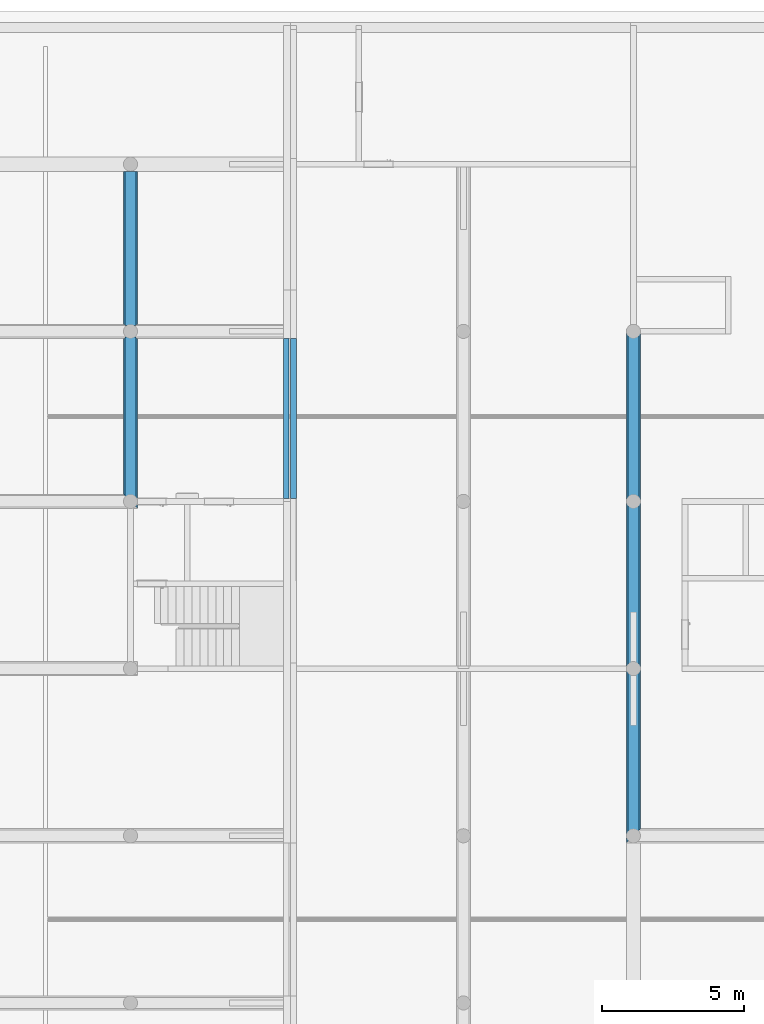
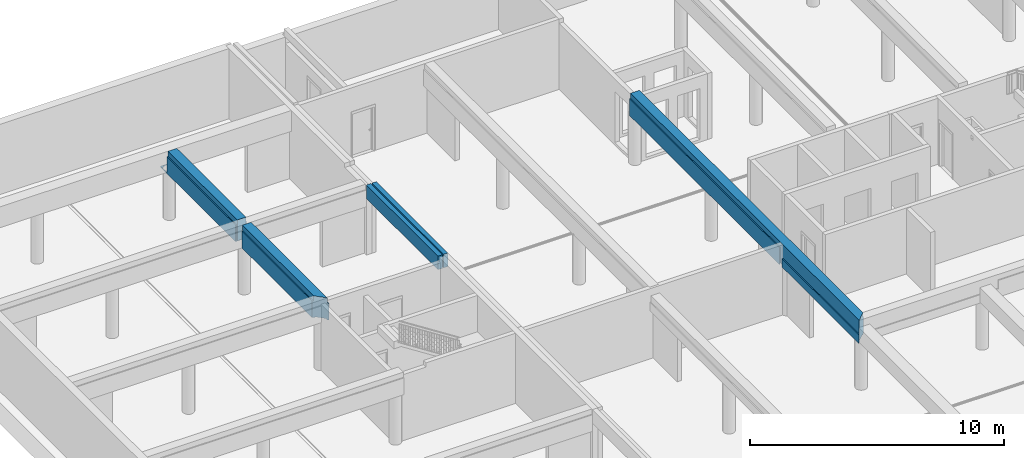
# One storey, part 8 of 25: 4 beams.
"""IFC2X3 building model written with IfcOpenShell, lengths in millimetres."""

from ifc_helpers import new_model, entity, si_unit, converted_unit, derived_unit, money_unit, direction, frame, origin_with_axes, place, context, subcontext, project, spatial, faceted_brep, material, material_list, type_object, element, save


model = new_model("IFC2X3")

# Units and contexts
model_context = context("Model", 3, precision=0.01, world=origin_with_axes(), true_north=direction((0.34421633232, 0.938890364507)))
body_context = subcontext(model_context, "Body", "Model", "MODEL_VIEW")
ifc_project = project(units=[si_unit("LENGTHUNIT", "METRE", prefix="MILLI"), si_unit("AREAUNIT", "SQUARE_METRE"), si_unit("VOLUMEUNIT", "CUBIC_METRE"), converted_unit("PLANEANGLEUNIT", "DEGREE", entity("IfcPlaneAngleMeasure", 0.0174532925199), si_unit("PLANEANGLEUNIT", "RADIAN"), dimensions=[0, 0, 0, 0, 0, 0, 0]), si_unit("SOLIDANGLEUNIT", "STERADIAN"), money_unit("USD"), converted_unit("TIMEUNIT", "Year", entity("IfcTimeMeasure", 31556926.0), si_unit("TIMEUNIT", "SECOND"), dimensions=[0, 0, 1, 0, 0, 0, 0]), si_unit("MASSUNIT", "GRAM", prefix="KILO"), si_unit("THERMODYNAMICTEMPERATUREUNIT", "DEGREE_CELSIUS"), si_unit("LUMINOUSINTENSITYUNIT", "LUMEN"), si_unit("ENERGYUNIT", "JOULE", prefix="MEGA"), derived_unit("THERMALCONDUCTANCEUNIT", [(si_unit("POWERUNIT", "WATT"), 1), (si_unit("LENGTHUNIT", "METRE"), -1), (si_unit("THERMODYNAMICTEMPERATUREUNIT", "KELVIN"), -1)]), derived_unit("SPECIFICHEATCAPACITYUNIT", [(si_unit("ENERGYUNIT", "JOULE"), 1), (si_unit("MASSUNIT", "GRAM", prefix="KILO"), -1), (si_unit("THERMODYNAMICTEMPERATUREUNIT", "KELVIN"), -1)]), derived_unit("MASSDENSITYUNIT", [(si_unit("MASSUNIT", "GRAM", prefix="KILO"), 1), (si_unit("VOLUMEUNIT", "CUBIC_METRE"), -1)])], contexts=[model_context])

# Site, building, storey
site_placement = place(None, origin_with_axes())
site = spatial("IfcSite", under=ifc_project, at=site_placement, Name="USTRONIE MORSKIE", CompositionType="ELEMENT")
building_placement = place(site_placement, origin_with_axes())
building = spatial("IfcBuilding", under=site, at=building_placement, Name="Budynek", CompositionType="ELEMENT")
storey_placement = place(building_placement, frame((0.0, 0.0, -3600.0), z_axis=(0.0, 0.0, 1.0), x_axis=(1.0, 0.0, 0.0)))
storey = spatial("IfcBuildingStorey", under=building, at=storey_placement, Name="GARAZ", CompositionType="ELEMENT", Elevation=-3600.0)

# Beams
ifc_material_1 = material(Name="Beton konstrukcyjny 01")
beam_type_1 = type_object("IfcBeamType", Name="Beton konstrukcyjny 01 200 x 650", PredefinedType="NOTDEFINED")
beam_1_placement = place(storey_placement, frame((367317.920919, 738551.199036, 3370.00030619), z_axis=(0.0, 0.0, 1.0), x_axis=(-1.0, 0.0, 0.0)))
element("IfcBeam", 1, at=beam_1_placement, inside=storey, type_object=beam_type_1, material=ifc_material_1, Name="B1", context=body_context, shape_type="Brep", body=[
    faceted_brep([(-100.0, 0.0, -650.00030624), (-100.0, 5650.0, -650.00030624), (100.0, 5650.0, -650.00030624), (100.0, -1.13686837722e-10, -650.00030624), (-100.0, 0.0, 0.0), (-100.0, 5650.0, 0.0), (100.0, 5650.0, 0.0), (100.0, -1.13686837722e-10, 0.0)], [[[0, 1, 2, 3]], [[4, 5, 1, 0]], [[2, 1, 5, 6]], [[3, 2, 6, 7]], [[4, 0, 3, 7]], [[7, 6, 5, 4]]]),
])
beam_2_placement = place(storey_placement, frame((367067.920919, 738551.199036, 3370.00030619), z_axis=(0.0, 0.0, 1.0), x_axis=(-1.0, 0.0, 0.0)))
element("IfcBeam", 2, at=beam_2_placement, inside=storey, type_object=beam_type_1, material=ifc_material_1, Name="B1", context=body_context, shape_type="Brep", body=[
    faceted_brep([(-100.0, 0.0, -650.000306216), (-100.0, 5650.0, -650.000306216), (100.0, 5650.0, -650.000306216), (100.0, 0.0, -650.000306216), (-100.0, 0.0, 0.0), (-100.0, 5650.0, 0.0), (100.0, 5650.0, 0.0), (100.0, 0.0, 0.0)], [[[0, 1, 2, 3]], [[4, 5, 1, 0]], [[2, 1, 5, 6]], [[3, 2, 6, 7]], [[4, 0, 3, 7]], [[7, 6, 5, 4]]]),
])
ifc_material_2 = material(Name="Termoizolacja WEŁNA SKALNA")
ifc_material_list = material_list([ifc_material_2, ifc_material_1])
beam_type_2 = type_object("IfcBeamType", Name="GARAŻ P01 500 x 1050", PredefinedType="NOTDEFINED")
beam_3_placement = place(storey_placement, frame((379317.920919, 721001.199036, 3370.00030619), z_axis=(0.0, 0.0, 1.0), x_axis=(1.0, 0.0, 0.0)))
element("IfcBeam", 3, at=beam_3_placement, inside=storey, type_object=beam_type_2, material=ifc_material_list, Name="B1", context=body_context, shape_type="Brep", body=[
    faceted_brep([(160.696902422, 11991.5111108, -1000.0), (191.51111078, 11960.6969024, -1000.0), (199.99999553, 11948.5735186, -1000.0), (199.99999553, 17651.4264814, -1000.0), (191.51111078, 17639.3030976, -1000.0), (160.696902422, 17608.4888892, -1000.0), (125.0, 17583.4936491, -1000.0), (85.5050358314, 17565.0768448, -1000.0), (43.4120444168, 17553.7980617, -1000.0), (0.0, 17550.0, -1000.0), (-43.4120444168, 17553.7980617, -1000.0), (-85.5050358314, 17565.0768448, -1000.0), (-125.0, 17583.4936491, -1000.0), (-160.696902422, 17608.4888892, -1000.0), (-191.51111078, 17639.3030976, -1000.0), (-200.000002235, 17651.426491, -1000.0), (-200.000002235, 11948.573509, -1000.0), (-191.51111078, 11960.6969024, -1000.0), (-160.696902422, 11991.5111108, -1000.0), (-125.0, 12016.5063509, -1000.0), (-85.5050358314, 12034.9231552, -1000.0), (-43.4120444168, 12046.2019383, -1000.0), (0.0, 12050.0, -1000.0), (43.4120444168, 12046.2019383, -1000.0), (85.5050358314, 12034.9231552, -1000.0), (125.0, 12016.5063509, -1000.0), (160.696902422, 11991.5111108, -1050.0), (191.51111078, 11960.6969024, -1050.0), (216.506350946, 11925.0, -1050.0), (216.506350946, 11925.0, -1000.0), (199.99999553, 11651.4264814, -1000.0), (199.99999553, 6048.59957077, -1000.0), (199.99999553, 5751.40042923, -1000.0), (199.99999553, 200.000002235, -1000.00000224), (199.99999553, 200.000002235, -250.00000447), (199.99999553, 17700.0, -250.00000447), (199.99999553, 17700.0, -1000.0), (216.506350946, 17675.0, -1050.0), (191.51111078, 17639.3030976, -1050.0), (216.506350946, 17675.0, -1000.0), (160.696902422, 17608.4888892, -1050.0), (125.0, 17583.4936491, -1050.0), (85.5050358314, 17565.0768448, -1050.0), (43.4120444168, 17553.7980617, -1050.0), (0.0, 17550.0, -1050.0), (-43.4120444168, 17553.7980617, -1050.0), (-85.5050358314, 17565.0768448, -1050.0), (-125.0, 17583.4936491, -1050.0), (-160.696902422, 17608.4888892, -1050.0), (-191.51111078, 17639.3030976, -1050.0), (-216.506350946, 17675.0, -1050.0), (-216.506350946, 17675.0, -1000.0), (-200.000002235, 11651.426491, -1000.0), (-200.000002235, 17800.0, -1000.0), (-200.000002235, 17800.0, -250.00000447), (-200.000002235, 6000.0, -250.00000447), (-200.000002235, 6000.0, -1000.0), (-200.000002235, 6048.5995612, -1000.0), (-216.506350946, 11925.0, -1000.0), (-216.506350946, 11925.0, -1050.0), (-191.51111078, 11960.6969024, -1050.0), (-160.696902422, 11991.5111108, -1050.0), (-125.0, 12016.5063509, -1050.0), (-85.5050358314, 12034.9231552, -1050.0), (-43.4120444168, 12046.2019383, -1050.0), (0.0, 12050.0, -1050.0), (43.4120444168, 12046.2019383, -1050.0), (85.5050358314, 12034.9231552, -1050.0), (125.0, 12016.5063509, -1050.0), (-246.201938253, 11843.4120444, -1050.0), (-250.0, 11800.0, -1050.0), (-250.0, 17800.0, -1050.0), (-246.201938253, 17756.5879556, -1050.0), (-234.923155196, 17714.4949642, -1050.0), (228.1640424, 17700.0, -1050.0), (249.999993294, 17700.0, -1050.0), (250.0, 11800.0, -1050.0), (246.201938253, 11843.4120444, -1050.0), (234.923155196, 11885.5050358, -1050.0), (-234.923155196, 11885.5050358, -1050.0), (234.923155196, 11885.5050358, -1000.0), (246.201938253, 11843.4120444, -1000.0), (250.0, 11800.0, -1000.0), (246.201938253, 11756.5879556, -1000.0), (234.923155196, 11714.4949642, -1000.0), (216.506350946, 11675.0, -1000.0), (-191.51111078, 11639.3030976, -1000.0), (-191.522601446, 6060.70654424, -1000.0), (-160.706544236, 6091.52260145, -1000.0), (-125.0075, 6116.51934133, -1000.0), (-100.0, 6128.18053009, -1000.0), (-100.0, 7900.0, -1000.00000224), (100.0, 7900.0, -1000.00000224), (100.0, 6128.18053009, -1000.0), (125.0075, 6116.51934133, -1000.0), (160.706544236, 6091.52260145, -1000.0), (191.522601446, 6060.70654424, -1000.0), (191.51111078, 11639.3030976, -1000.0), (160.696902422, 11608.4888892, -1000.0), (125.0, 11583.4936491, -1000.0), (85.5050358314, 11565.0768448, -1000.0), (43.4120444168, 11553.7980617, -1000.0), (0.0, 11550.0, -1000.0), (-43.4120444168, 11553.7980617, -1000.0), (-85.5050358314, 11565.0768448, -1000.0), (-125.0, 11583.4936491, -1000.0), (-160.696902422, 11608.4888892, -1000.0), (249.999993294, 5900.17152743, -1000.0), (249.999993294, 5899.82847257, -1000.0), (246.216710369, 5856.58535086, -1000.0), (234.937250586, 5814.48983387, -1000.0), (216.519341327, 5774.9925, -1000.0), (216.519341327, 6025.0075, -1000.0), (234.937250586, 5985.51016613, -1000.0), (246.216710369, 5943.41464914, -1000.0), (125.0075, 216.519341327, -1000.0), (160.706544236, 191.522601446, -1000.0), (176.114569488, 176.114576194, -1000.0), (191.522601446, 5739.29345576, -1000.0), (160.706544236, 5708.47739855, -1000.0), (125.0075, 5683.48065867, -1000.0), (100.0, 5671.81946991, -1000.0), (100.0, 3900.0, -1000.00000224), (-100.0, 3900.0, -1000.00000224), (-100.0, 5671.81946991, -1000.0), (-125.0075, 5683.48065867, -1000.0), (-160.706544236, 5708.47739855, -1000.0), (-191.522601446, 5739.29345576, -1000.0), (-200.000002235, 5751.4004388, -1000.0), (-200.000002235, 148.599561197, -1000.0), (-191.522601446, 160.706544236, -1000.0), (-160.706544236, 191.522601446, -1000.0), (-125.0075, 216.519341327, -1000.0), (-85.5101661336, 234.937250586, -1000.0), (-43.4146491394, 246.216710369, -1000.0), (0.0, 250.015, -1000.0), (43.4146491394, 246.216710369, -1000.0), (85.5101661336, 234.937250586, -1000.0), (176.114569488, 176.114576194, -1050.0), (249.999993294, 250.0, -1050.0), (249.999993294, 250.0, -250.00000447), (249.999993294, 17700.0, -250.00000447), (228.1640424, 17700.0, -1000.0), (-234.923155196, 17714.4949642, -1000.0), (-250.0, 17800.0, -1000.0), (-246.201938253, 17756.5879556, -1000.0), (-216.506350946, 11675.0, -1000.0), (-234.923155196, 11714.4949642, -1000.0), (-246.201938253, 11756.5879556, -1000.0), (-250.0, 11800.0, -1000.0), (-246.201938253, 11843.4120444, -1000.0), (-234.923155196, 11885.5050358, -1000.0), (-250.0, 17800.0, -250.00000447), (-250.0, 6000.0, -250.00000447), (-228.180530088, 6000.0, -1000.0), (-250.0, 6000.0, -1050.0), (-228.180530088, 6000.0, -1050.0), (-216.519341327, 6025.0075, -1000.0), (249.999993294, 5899.82847257, -1050.0), (249.999993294, 5900.17152743, -1050.0), (246.201938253, 11756.5879556, -1050.0), (234.923155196, 11714.4949642, -1050.0), (216.506350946, 11675.0, -1050.0), (191.51111078, 11639.3030976, -1050.0), (-191.51111078, 11639.3030976, -1050.0), (-216.506350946, 11675.0, -1050.0), (-216.519341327, 6025.0075, -1050.0), (-191.522601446, 6060.70654424, -1050.0), (-160.706544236, 6091.52260145, -1050.0), (-125.0075, 6116.51934133, -1050.0), (-100.0, 6128.18053009, -1050.0), (-100.0, 7900.0, -1050.0), (100.0, 7900.0, -1050.0), (100.0, 6128.18053009, -1050.0), (125.0075, 6116.51934133, -1050.0), (160.706544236, 6091.52260145, -1050.0), (191.522601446, 6060.70654424, -1050.0), (216.519341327, 6025.0075, -1050.0), (160.696902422, 11608.4888892, -1050.0), (125.0, 11583.4936491, -1050.0), (85.5050358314, 11565.0768448, -1050.0), (43.4120444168, 11553.7980617, -1050.0), (0.0, 11550.0, -1050.0), (-43.4120444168, 11553.7980617, -1050.0), (-85.5050358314, 11565.0768448, -1050.0), (-125.0, 11583.4936491, -1050.0), (-160.696902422, 11608.4888892, -1050.0), (246.216710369, 5856.58535086, -1050.0), (234.937250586, 5814.48983387, -1050.0), (216.519341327, 5774.9925, -1050.0), (191.522601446, 5739.29345576, -1050.0), (234.937250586, 5985.51016613, -1050.0), (246.216710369, 5943.41464914, -1050.0), (125.0075, 216.519341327, -1050.0), (160.706544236, 191.522601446, -1050.0), (160.706544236, 5708.47739855, -1050.0), (125.0075, 5683.48065867, -1050.0), (100.0, 5671.81946991, -1050.0), (100.0, 3900.0, -1050.0), (-100.0, 3900.0, -1050.0), (-100.0, 5671.81946991, -1050.0), (-125.0075, 5683.48065867, -1050.0), (-160.706544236, 5708.47739855, -1050.0), (-191.522601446, 5739.29345576, -1050.0), (-216.519341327, 5774.9925, -1050.0), (-216.519341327, 5774.9925, -1000.0), (-200.000002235, -148.599561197, -1000.0), (-200.000002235, 5800.0, -1000.0), (-200.000002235, 5799.99990542, -650.000306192), (-200.000002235, -199.99999553, -650.000306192), (-200.000002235, -199.99999553, -1000.00000224), (-216.519341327, 125.0075, -1000.0), (-216.519341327, 125.0075, -1050.0), (-191.522601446, 160.706544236, -1050.0), (-160.706544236, 191.522601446, -1050.0), (-125.0075, 216.519341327, -1050.0), (-85.5101661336, 234.937250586, -1050.0), (-43.4146491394, 246.216710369, -1050.0), (0.0, 250.015, -1050.0), (43.4146491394, 246.216710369, -1050.0), (85.5101661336, 234.937250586, -1050.0), (-246.216710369, 43.4146491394, -1050.0), (-250.0, 0.171450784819, -1050.0), (-250.0, 5800.0, -1050.0), (-228.180530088, 5800.0, -1050.0), (-234.937250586, 85.5101661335, -1050.0), (-234.923155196, 11714.4949642, -1050.0), (-246.201938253, 11756.5879556, -1050.0), (-228.180485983, 5799.99990542, -1000.0), (-216.519341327, -125.0075, -1000.0), (-234.937250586, -85.5101661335, -1000.0), (-246.216710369, -43.4146491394, -1000.0), (-250.0, -0.171450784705, -1000.0), (-250.0, 0.171450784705, -1000.0), (-246.216710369, 43.4146491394, -1000.0), (-234.937250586, 85.5101661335, -1000.0), (-250.0, 5799.99990542, -650.000306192), (-250.0, -249.999993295, -650.000306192), (-176.114576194, -176.114569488, -1050.0), (-176.114576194, -176.114569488, -1000.0), (-250.0, -249.999993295, -1050.0), (-191.522601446, -160.706544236, -1000.0), (-250.0, -0.171450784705, -1050.0), (-191.522601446, -160.706544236, -1050.0), (-216.519341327, -125.0075, -1050.0), (-234.937250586, -85.5101661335, -1050.0), (-246.216710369, -43.4146491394, -1050.0)], [[[0, 1, 2, 3, 4, 5, 6, 7, 8, 9, 10, 11, 12, 13, 14, 15, 16, 17, 18, 19, 20, 21, 22, 23, 24, 25]], [[1, 0, 26, 27]], [[27, 28, 29, 2, 1]], [[2, 30, 31, 32, 33, 34, 35, 36, 3]], [[37, 38, 4, 3, 39]], [[5, 4, 38, 40]], [[6, 5, 40, 41]], [[7, 6, 41, 42]], [[8, 7, 42, 43]], [[9, 8, 43, 44]], [[10, 9, 44, 45]], [[11, 10, 45, 46]], [[12, 11, 46, 47]], [[13, 12, 47, 48]], [[14, 13, 48, 49]], [[15, 14, 49, 50, 51]], [[52, 16, 15, 53, 54, 55, 56, 57]], [[17, 16, 58, 59, 60]], [[18, 17, 60, 61]], [[19, 18, 61, 62]], [[20, 19, 62, 63]], [[21, 20, 63, 64]], [[22, 21, 64, 65]], [[23, 22, 65, 66]], [[24, 23, 66, 67]], [[25, 24, 67, 68]], [[0, 25, 68, 26]], [[69, 70, 71, 72, 73, 50, 49, 48, 47, 46, 45, 44, 43, 42, 41, 40, 38, 37, 74, 75, 76, 77, 78, 28, 27, 26, 68, 67, 66, 65, 64, 63, 62, 61, 60, 59, 79]], [[28, 78, 80, 29]], [[30, 2, 29, 80, 81, 82, 83, 84, 85]], [[86, 52, 57, 87, 88, 89, 90, 91, 92, 93, 94, 95, 96, 31, 30, 97, 98, 99, 100, 101, 102, 103, 104, 105, 106]], [[107, 108, 109, 110, 111, 32, 31, 112, 113, 114]], [[115, 116, 117, 33, 32, 118, 119, 120, 121, 122, 123, 124, 125, 126, 127, 128, 129, 130, 131, 132, 133, 134, 135, 136, 137]], [[117, 138, 139, 140, 34, 33]], [[34, 140, 141, 35]], [[142, 36, 35, 141, 75, 74]], [[36, 142, 39, 3]], [[142, 74, 37, 39]], [[50, 73, 143, 51]], [[144, 53, 15, 51, 143, 145]], [[16, 52, 146, 147, 148, 149, 150, 151, 58]], [[53, 144, 152, 54]], [[54, 152, 153, 55]], [[154, 56, 55, 153, 155, 156]], [[57, 56, 154, 157]], [[79, 59, 58, 151]], [[70, 69, 150, 149]], [[144, 71, 70, 155, 153, 152]], [[72, 71, 144, 145]], [[73, 72, 145, 143]], [[158, 108, 107, 159, 76, 75, 141, 140, 139]], [[77, 76, 82, 81]], [[78, 77, 81, 80]], [[69, 79, 151, 150]], [[76, 160, 83, 82]], [[160, 161, 84, 83]], [[161, 162, 85, 84]], [[162, 163, 97, 30, 85]], [[52, 86, 164, 165, 146]], [[87, 57, 157, 166, 167]], [[88, 87, 167, 168]], [[89, 88, 168, 169]], [[170, 90, 89, 169]], [[90, 170, 171, 91]], [[171, 172, 92, 91]], [[173, 93, 92, 172]], [[94, 93, 173, 174]], [[95, 94, 174, 175]], [[96, 95, 175, 176]], [[176, 177, 112, 31, 96]], [[98, 97, 163, 178]], [[99, 98, 178, 179]], [[100, 99, 179, 180]], [[101, 100, 180, 181]], [[102, 101, 181, 182]], [[103, 102, 182, 183]], [[104, 103, 183, 184]], [[105, 104, 184, 185]], [[106, 105, 185, 186]], [[86, 106, 186, 164]], [[108, 158, 187, 109]], [[187, 188, 110, 109]], [[188, 189, 111, 110]], [[189, 190, 118, 32, 111]], [[177, 191, 113, 112]], [[191, 192, 114, 113]], [[159, 107, 114, 192]], [[116, 115, 193, 194]], [[138, 117, 116, 194]], [[119, 118, 190, 195]], [[120, 119, 195, 196]], [[121, 120, 196, 197]], [[121, 197, 198, 122]], [[198, 199, 123, 122]], [[200, 124, 123, 199]], [[125, 124, 200, 201]], [[126, 125, 201, 202]], [[127, 126, 202, 203]], [[128, 127, 203, 204, 205]], [[206, 129, 128, 207, 208, 209, 210]], [[130, 129, 211, 212, 213]], [[131, 130, 213, 214]], [[132, 131, 214, 215]], [[133, 132, 215, 216]], [[134, 133, 216, 217]], [[135, 134, 217, 218]], [[136, 135, 218, 219]], [[137, 136, 219, 220]], [[115, 137, 220, 193]], [[221, 222, 223, 224, 204, 203, 202, 201, 200, 199, 198, 197, 196, 195, 190, 189, 188, 187, 158, 139, 138, 194, 193, 220, 219, 218, 217, 216, 215, 214, 213, 212, 225]], [[165, 226, 147, 146]], [[226, 227, 148, 147]], [[227, 70, 149, 148]], [[161, 160, 76, 159, 192, 191, 177, 176, 175, 174, 173, 172, 171, 170, 169, 168, 167, 166, 156, 155, 70, 227, 226, 165, 164, 186, 185, 184, 183, 182, 181, 180, 179, 178, 163, 162]], [[156, 166, 157, 154]], [[204, 224, 228, 205]], [[228, 207, 128, 205]], [[129, 206, 229, 230, 231, 232, 233, 234, 235, 211]], [[228, 224, 223, 236, 208, 207]], [[237, 209, 208, 236]], [[238, 239, 210, 209, 237, 240]], [[241, 206, 210, 239]], [[225, 212, 211, 235]], [[222, 221, 234, 233]], [[232, 242, 240, 237, 236, 223, 222, 233]], [[221, 225, 235, 234]], [[206, 241, 243, 244, 229]], [[244, 245, 230, 229]], [[245, 246, 231, 230]], [[246, 242, 232, 231]], [[241, 239, 238, 243]], [[243, 238, 240, 242, 246, 245, 244]]]),
    faceted_brep([(200.0, 200.000006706, -1000.0), (200.0, 17800.0, -1000.0), (199.99999553, 17800.0, -250.00000447), (199.99999553, 200.000002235, -250.00000447), (-200.0, -199.999993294, -1000.0), (-200.0, 17800.0, -1000.0), (-200.000002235, 17800.0, -250.00000447), (-200.0, 17800.0, 0.0), (200.0, 17800.0, 0.0), (200.0, 200.000006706, 0.0), (-200.0, -199.999993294, 0.0), (-200.000002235, -199.99999553, -250.00000447)], [[[0, 1, 2, 3]], [[4, 5, 1, 0]], [[2, 1, 5, 6, 7, 8]], [[3, 2, 8, 9]], [[4, 0, 3, 9, 10, 11]], [[11, 6, 5, 4]], [[10, 7, 6, 11]], [[9, 8, 7, 10]]]),
])
beam_4_placement = place(storey_placement, frame((361567.920919, 732801.199036, 3370.00030619), z_axis=(0.0, 0.0, 1.0), x_axis=(1.0, 0.0, 0.0)))
element("IfcBeam", 4, at=beam_4_placement, inside=storey, type_object=beam_type_2, material=ifc_material_list, Name="B1", context=body_context, shape_type="Brep", body=[
    faceted_brep([(228.1640424, -100.0, -1000.0), (199.999996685, -100.0, -1000.0), (199.99999553, -100.0, -250.00000447), (249.999993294, -100.0, -250.00000447), (249.999993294, -100.0, -1050.0), (228.1640424, -100.0, -1050.0), (216.506350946, -125.0, -1000.0), (199.999996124, -148.573517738, -1000.0), (199.99999553, -199.99999553, -1000.00000224), (199.99999553, -199.99999553, -250.00000447), (249.999993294, -249.999993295, -250.00000447), (249.999993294, -249.999993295, -1050.0), (216.506350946, -125.0, -1050.0), (176.104006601, -176.104006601, -1050.0), (191.51111078, -160.696902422, -1050.0), (191.51111078, -160.696902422, -1000.0), (176.104006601, -176.104006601, -1000.0)], [[[0, 1, 2, 3, 4, 5]], [[1, 0, 6, 7]], [[1, 7, 8, 9, 2]], [[2, 9, 10, 3]], [[3, 10, 11, 4]], [[12, 5, 4, 11, 13, 14]], [[0, 5, 12, 6]], [[12, 14, 15, 7, 6]], [[15, 16, 8, 7]], [[16, 13, 11, 10, 9, 8]], [[16, 15, 14, 13]]]),
    faceted_brep([(234.923155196, 11814.4949642, -1050.0), (246.201938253, 11856.5879556, -1050.0), (250.0, 11900.0, -1050.0), (249.999993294, 6249.99999329, -1050.0), (-250.0, 6249.99999329, -1050.0), (-250.0, 11900.0, -1050.0), (-246.201938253, 11856.5879556, -1050.0), (-234.923155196, 11814.4949642, -1050.0), (-216.506350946, 11775.0, -1050.0), (-191.51111078, 11739.3030976, -1050.0), (-160.696902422, 11708.4888892, -1050.0), (-125.0, 11683.4936491, -1050.0), (-85.5050358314, 11665.0768448, -1050.0), (-43.4120444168, 11653.7980617, -1050.0), (0.0, 11650.0, -1050.0), (43.4120444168, 11653.7980617, -1050.0), (85.5050358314, 11665.0768448, -1050.0), (125.0, 11683.4936491, -1050.0), (160.696902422, 11708.4888892, -1050.0), (191.51111078, 11739.3030976, -1050.0), (216.506350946, 11775.0, -1050.0), (234.923155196, 11814.4949642, -1000.0), (246.201938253, 11856.5879556, -1000.0), (250.0, 11900.0, -1000.0), (249.999993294, 11650.0, -1000.0), (249.999993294, 11650.0, -250.00000447), (249.999993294, 6249.99999329, -250.00000447), (249.999993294, 12150.0, -1050.0), (249.999993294, 12150.0, -1000.0), (-250.0, 6249.99999329, -250.00000447), (199.99999553, 6249.99999329, -250.00000447), (200.0, 6249.99999329, -1000.0), (-200.0, 6249.99999329, -1000.0), (-200.000002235, 6249.99999329, -250.00000447), (-250.0, 11650.0, -250.00000447), (-250.0, 11650.0, -1000.0), (-250.0, 11900.0, -1000.0), (-250.0, 12150.0, -1000.0), (-250.0, 12150.0, -1050.0), (-246.201938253, 11856.5879556, -1000.0), (-234.923155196, 11814.4949642, -1000.0), (-216.506350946, 11775.0, -1000.0), (-200.000002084, 11751.4264908, -1000.0), (-191.51111078, 11739.3030976, -1000.0), (-160.696902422, 11708.4888892, -1000.0), (-125.0, 11683.4936491, -1000.0), (-85.5050358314, 11665.0768448, -1000.0), (-43.4120444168, 11653.7980617, -1000.0), (0.0, 11650.0, -1000.0), (43.4120444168, 11653.7980617, -1000.0), (85.5050358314, 11665.0768448, -1000.0), (125.0, 11683.4936491, -1000.0), (160.696902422, 11708.4888892, -1000.0), (191.51111078, 11739.3030976, -1000.0), (199.999995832, 11751.4264818, -1000.0), (216.506350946, 11775.0, -1000.0), (199.999995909, 11650.0, -1000.0), (246.201938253, 11943.4120444, -1000.0), (246.201938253, 11943.4120444, -1050.0), (199.99999553, 11650.0, -250.00000447), (43.4120444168, 12146.2019383, -1050.0), (0.0, 12150.0, -1050.0), (234.923155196, 11985.5050358, -1050.0), (216.506350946, 12025.0, -1050.0), (191.51111078, 12060.6969024, -1050.0), (160.696902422, 12091.5111108, -1050.0), (125.0, 12116.5063509, -1050.0), (85.5050358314, 12134.9231552, -1050.0), (-200.000002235, 12150.0, -1000.0), (0.0, 12150.0, -1000.0), (199.99999553, 12150.0, -1000.0), (234.923155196, 11985.5050358, -1000.0), (199.999995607, 12048.5735185, -1000.0), (216.506350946, 12025.0, -1000.0), (-200.000002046, 11650.0, -1000.0), (-200.000002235, 11650.0, -250.00000447), (-216.506350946, 12025.0, -1000.0), (-200.000002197, 12048.5735091, -1000.0), (-246.201938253, 11943.4120444, -1000.0), (-234.923155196, 11985.5050358, -1000.0), (-246.201938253, 11943.4120444, -1050.0), (-43.4120444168, 12146.2019383, -1050.0), (-85.5050358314, 12134.9231552, -1050.0), (-125.0, 12116.5063509, -1050.0), (-160.696902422, 12091.5111108, -1050.0), (-191.51111078, 12060.6969024, -1050.0), (-216.506350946, 12025.0, -1050.0), (-234.923155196, 11985.5050358, -1050.0), (43.4120444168, 12146.2019383, -1000.0), (191.51111078, 12060.6969024, -1000.0), (160.696902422, 12091.5111108, -1000.0), (125.0, 12116.5063509, -1000.0), (85.5050358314, 12134.9231552, -1000.0), (-43.4120444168, 12146.2019383, -1000.0), (-191.51111078, 12060.6969024, -1000.0), (-160.696902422, 12091.5111108, -1000.0), (-125.0, 12116.5063509, -1000.0), (-85.5050358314, 12134.9231552, -1000.0)], [[[0, 1, 2, 3, 4, 5, 6, 7, 8, 9, 10, 11, 12, 13, 14, 15, 16, 17, 18, 19, 20]], [[21, 22, 1, 0]], [[22, 23, 2, 1]], [[23, 24, 25, 26, 3, 2, 27, 28]], [[29, 4, 3, 26, 30, 31, 32, 33]], [[34, 35, 36, 37, 38, 5, 4, 29]], [[36, 39, 6, 5]], [[39, 40, 7, 6]], [[40, 41, 8, 7]], [[42, 43, 9, 8, 41]], [[43, 44, 10, 9]], [[44, 45, 11, 10]], [[45, 46, 12, 11]], [[46, 47, 13, 12]], [[47, 48, 14, 13]], [[48, 49, 15, 14]], [[49, 50, 16, 15]], [[50, 51, 17, 16]], [[51, 52, 18, 17]], [[52, 53, 19, 18]], [[54, 55, 20, 19, 53]], [[55, 21, 0, 20]], [[55, 54, 56, 24, 23, 22, 21]], [[23, 57, 58, 2]], [[56, 59, 25, 24]], [[26, 25, 59, 30]], [[60, 61, 27, 2, 58, 62, 63, 64, 65, 66, 67]], [[68, 69, 70, 28, 27, 61, 38, 37]], [[71, 57, 23, 28, 70, 72, 73]], [[30, 59, 56, 31]], [[43, 42, 74, 32, 31, 56, 54, 53, 52, 51, 50, 49, 48, 47, 46, 45, 44]], [[32, 74, 75, 33]], [[33, 75, 34, 29]], [[35, 34, 75, 74]], [[39, 36, 35, 74, 42, 41, 40]], [[76, 77, 68, 37, 36, 78, 79]], [[80, 5, 38, 61, 81, 82, 83, 84, 85, 86, 87]], [[78, 36, 5, 80]], [[57, 71, 62, 58]], [[88, 69, 61, 60]], [[71, 73, 63, 62]], [[73, 72, 89, 64, 63]], [[89, 90, 65, 64]], [[90, 91, 66, 65]], [[91, 92, 67, 66]], [[92, 88, 60, 67]], [[93, 69, 68, 77, 94, 95, 96, 97]], [[89, 72, 70, 69, 88, 92, 91, 90]], [[94, 77, 76, 86, 85]], [[79, 78, 80, 87]], [[76, 79, 87, 86]], [[69, 93, 81, 61]], [[93, 97, 82, 81]], [[97, 96, 83, 82]], [[96, 95, 84, 83]], [[95, 94, 85, 84]]]),
    faceted_brep([(228.1640424, 100.0, -1000.0), (228.1640424, 99.9999999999, -1050.0), (249.999993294, 99.9999999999, -1050.0), (249.999993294, 99.9999999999, -250.00000447), (199.99999553, 99.9999999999, -250.00000447), (199.99999676, 99.9999999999, -1000.0), (216.506350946, 125.0, -1000.0), (216.506350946, 125.0, -1050.0), (-160.696902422, 191.51111078, -1050.0), (-176.104006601, 176.104006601, -1050.0), (-250.0, 250.0, -1050.0), (-250.0, 5750.0, -1050.0), (249.999993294, 5750.0, -1050.0), (191.51111078, 160.696902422, -1050.0), (160.696902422, 191.51111078, -1050.0), (125.0, 216.506350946, -1050.0), (85.5050358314, 234.923155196, -1050.0), (43.4120444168, 246.201938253, -1050.0), (0.0, 250.0, -1050.0), (-43.4120444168, 246.201938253, -1050.0), (-85.5050358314, 234.923155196, -1050.0), (-125.0, 216.506350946, -1050.0), (249.999993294, 5750.0, -250.00000447), (199.99999553, 5750.0, -250.00000447), (199.999996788, 148.57351679, -1000.0), (200.0, 5750.0, -1000.0), (191.51111078, 160.696902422, -1000.0), (-160.696902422, 191.51111078, -1000.0), (-176.104006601, 176.104006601, -1000.0), (-200.000002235, 200.000002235, -1000.00000224), (-200.000002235, 200.000002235, -250.00000447), (-250.0, 250.0, -250.00000447), (-250.0, 5750.0, -250.00000447), (-200.000002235, 5750.0, -250.00000447), (-200.0, 5750.0, -1000.0), (160.696902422, 191.51111078, -1000.0), (125.0, 216.506350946, -1000.0), (85.5050358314, 234.923155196, -1000.0), (43.4120444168, 246.201938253, -1000.0), (0.0, 250.0, -1000.0), (-43.4120444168, 246.201938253, -1000.0), (-85.5050358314, 234.923155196, -1000.0), (-125.0, 216.506350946, -1000.0)], [[[0, 1, 2, 3, 4, 5]], [[1, 0, 6, 7]], [[8, 9, 10, 11, 12, 2, 1, 7, 13, 14, 15, 16, 17, 18, 19, 20, 21]], [[2, 12, 22, 3]], [[3, 22, 23, 4]], [[24, 5, 4, 23, 25]], [[0, 5, 24, 6]], [[13, 7, 6, 24, 26]], [[27, 28, 9, 8]], [[9, 28, 29, 30, 31, 10]], [[31, 32, 11, 10]], [[12, 11, 32, 33, 34, 25, 23, 22]], [[26, 35, 14, 13]], [[35, 36, 15, 14]], [[36, 37, 16, 15]], [[37, 38, 17, 16]], [[38, 39, 18, 17]], [[39, 40, 19, 18]], [[40, 41, 20, 19]], [[41, 42, 21, 20]], [[42, 27, 8, 21]], [[26, 24, 25, 34, 29, 28, 27, 42, 41, 40, 39, 38, 37, 36, 35]], [[33, 30, 29, 34]], [[30, 33, 32, 31]]]),
    faceted_brep([(199.99999553, 6199.99999553, -250.00000447), (199.99999553, 11650.0, -250.00000447), (200.0, 11650.0, 0.0), (200.0, 6200.0, 0.0), (200.0, 6200.0, -1000.0), (200.0, 11650.0, -1000.0), (-200.000002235, 11650.0, -250.00000447), (-200.0, 11650.0, 0.0), (-200.0, 11650.0, -1000.0), (-200.0, 6200.0, 0.0), (-200.000002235, 6199.99999553, -250.00000447), (-200.0, 6200.0, -1000.0)], [[[0, 1, 2, 3]], [[4, 5, 1, 0]], [[6, 7, 2, 1, 5, 8]], [[3, 2, 7, 9]], [[9, 10, 0, 3]], [[11, 8, 5, 4]], [[10, 11, 4, 0]], [[9, 7, 6, 10]], [[10, 6, 8, 11]]]),
    faceted_brep([(199.99999553, -199.99999553, -250.00000447), (199.99999553, 5799.99999776, -250.00000447), (200.0, 5800.0, 0.0), (200.0, -200.0, 0.0), (200.0, -200.0, -1000.0), (200.0, 5800.0, -1000.0), (-200.000002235, 5799.99999776, -250.00000447), (-200.0, 5800.0, 0.0), (-200.0, 200.0, 0.0), (-200.000002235, 200.000002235, -250.00000447), (-200.0, 200.0, -1000.0), (-200.0, 5800.0, -1000.0)], [[[0, 1, 2, 3]], [[4, 5, 1, 0]], [[6, 7, 2, 1]], [[3, 2, 7, 8]], [[8, 9, 10, 4, 0, 3]], [[10, 11, 5, 4]], [[6, 1, 5, 11]], [[8, 7, 6, 9]], [[9, 6, 11, 10]]]),
])

save(model, "model.ifc")
